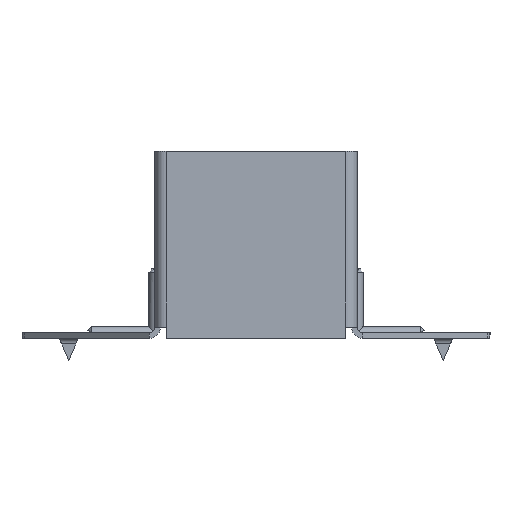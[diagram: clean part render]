
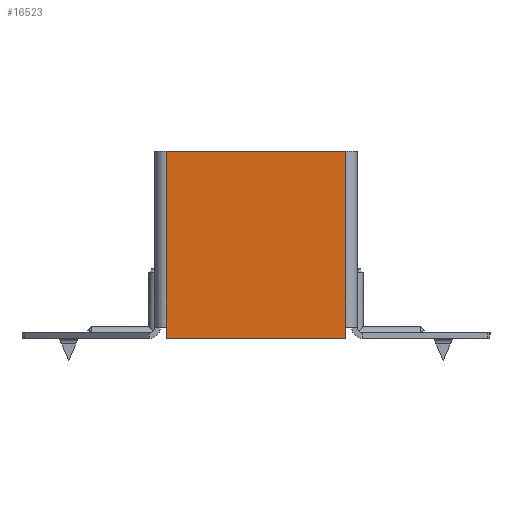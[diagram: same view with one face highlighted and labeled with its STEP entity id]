
A CAD part, front view. The second image highlights one B-rep face of the part: STEP entity #16523.
In plain terms, the highlighted planar face has unit normal (0, -1, 0).
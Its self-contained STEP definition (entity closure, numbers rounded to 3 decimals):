
#1045 = VERTEX_POINT ( 'NONE', #17881 ) ;
#1258 = VERTEX_POINT ( 'NONE', #11404 ) ;
#1654 = FACE_OUTER_BOUND ( 'NONE', #14396, .T. ) ;
#2188 = ORIENTED_EDGE ( 'NONE', *, *, #14194, .F. ) ;
#2604 = VECTOR ( 'NONE', #11987, 1000. ) ;
#2960 = ORIENTED_EDGE ( 'NONE', *, *, #9769, .T. ) ;
#4743 = CARTESIAN_POINT ( 'NONE',  ( 24., 0., -70. ) ) ;
#5285 = LINE ( 'NONE', #15627, #14011 ) ;
#5511 = VECTOR ( 'NONE', #10783, 1000. ) ;
#5607 = LINE ( 'NONE', #4743, #14328 ) ;
#5664 = VERTEX_POINT ( 'NONE', #9839 ) ;
#5777 = CARTESIAN_POINT ( 'NONE',  ( 24., 0., -70. ) ) ;
#6102 = CARTESIAN_POINT ( 'NONE',  ( 24., 0., -20. ) ) ;
#6118 = CARTESIAN_POINT ( 'NONE',  ( -25.5, 0., -70. ) ) ;
#6806 = AXIS2_PLACEMENT_3D ( 'NONE', #9139, #7554, #16036 ) ;
#6901 = VERTEX_POINT ( 'NONE', #18402 ) ;
#7258 = EDGE_CURVE ( 'NONE', #5664, #10972, #5607, .T. ) ;
#7554 = DIRECTION ( 'NONE',  ( 0., 1., 0. ) ) ;
#8183 = VERTEX_POINT ( 'NONE', #5777 ) ;
#9106 = CARTESIAN_POINT ( 'NONE',  ( 24., 0., -70. ) ) ;
#9139 = CARTESIAN_POINT ( 'NONE',  ( 0., 0., 0. ) ) ;
#9541 = LINE ( 'NONE', #12440, #16712 ) ;
#9769 = EDGE_CURVE ( 'NONE', #10972, #6901, #13092, .T. ) ;
#9839 = CARTESIAN_POINT ( 'NONE',  ( 24., 0., -67. ) ) ;
#10301 = ORIENTED_EDGE ( 'NONE', *, *, #14962, .T. ) ;
#10522 = PLANE ( 'NONE',  #6806 ) ;
#10783 = DIRECTION ( 'NONE',  ( 0., 0., 1. ) ) ;
#10972 = VERTEX_POINT ( 'NONE', #6102 ) ;
#11404 = CARTESIAN_POINT ( 'NONE',  ( -24., 0., -67. ) ) ;
#11604 = ORIENTED_EDGE ( 'NONE', *, *, #15259, .T. ) ;
#11768 = DIRECTION ( 'NONE',  ( -1., 0., 0. ) ) ;
#11987 = DIRECTION ( 'NONE',  ( -1., 0., 0. ) ) ;
#12376 = DIRECTION ( 'NONE',  ( 0., 0., -1. ) ) ;
#12440 = CARTESIAN_POINT ( 'NONE',  ( -24., 0., 0. ) ) ;
#13092 = LINE ( 'NONE', #15833, #15995 ) ;
#13115 = LINE ( 'NONE', #9106, #5511 ) ;
#14011 = VECTOR ( 'NONE', #15763, 1000. ) ;
#14194 = EDGE_CURVE ( 'NONE', #8183, #1045, #14271, .T. ) ;
#14271 = LINE ( 'NONE', #6118, #2604 ) ;
#14328 = VECTOR ( 'NONE', #14878, 1000. ) ;
#14396 = EDGE_LOOP ( 'NONE', ( #2960, #11604, #10301, #2188, #16199, #17303 ) ) ;
#14878 = DIRECTION ( 'NONE',  ( 0., 0., 1. ) ) ;
#14962 = EDGE_CURVE ( 'NONE', #1258, #1045, #5285, .T. ) ;
#15259 = EDGE_CURVE ( 'NONE', #6901, #1258, #9541, .T. ) ;
#15627 = CARTESIAN_POINT ( 'NONE',  ( -24., 0., 0. ) ) ;
#15763 = DIRECTION ( 'NONE',  ( 0., 0., -1. ) ) ;
#15833 = CARTESIAN_POINT ( 'NONE',  ( 0., 0., -20. ) ) ;
#15995 = VECTOR ( 'NONE', #11768, 1000. ) ;
#16036 = DIRECTION ( 'NONE',  ( 0., 0., 1. ) ) ;
#16138 = EDGE_CURVE ( 'NONE', #8183, #5664, #13115, .T. ) ;
#16199 = ORIENTED_EDGE ( 'NONE', *, *, #16138, .T. ) ;
#16523 = ADVANCED_FACE ( 'NONE', ( #1654 ), #10522, .F. ) ;
#16712 = VECTOR ( 'NONE', #12376, 1000. ) ;
#17303 = ORIENTED_EDGE ( 'NONE', *, *, #7258, .T. ) ;
#17881 = CARTESIAN_POINT ( 'NONE',  ( -24., 0., -70. ) ) ;
#18402 = CARTESIAN_POINT ( 'NONE',  ( -24., 0., -20. ) ) ;
